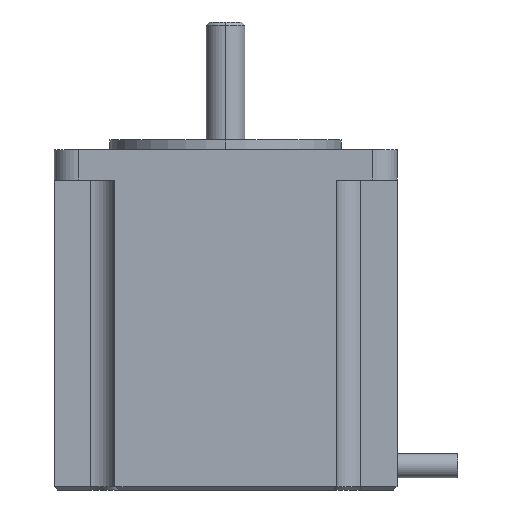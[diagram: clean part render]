
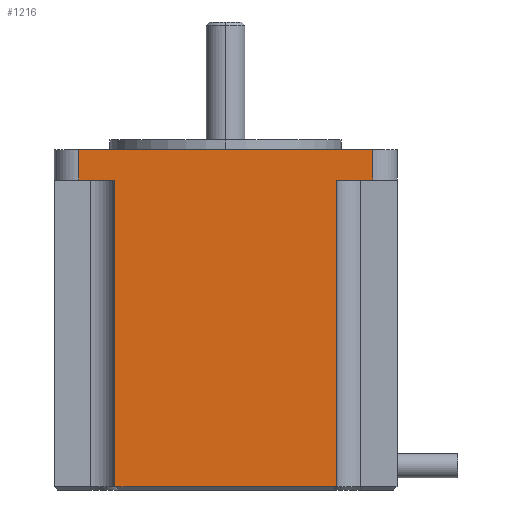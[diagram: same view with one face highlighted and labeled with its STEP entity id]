
A CAD part, left-side view. The second image highlights one B-rep face of the part: STEP entity #1216.
In plain terms, the highlighted planar face has unit normal (-1, 0, 0).
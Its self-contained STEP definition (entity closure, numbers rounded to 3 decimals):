
#20 = VERTEX_POINT ( 'NONE', #1179 ) ;
#39 = CARTESIAN_POINT ( 'NONE',  ( -28.2, -18.2, 70.142 ) ) ;
#70 = VECTOR ( 'NONE', #527, 1000. ) ;
#81 = CARTESIAN_POINT ( 'NONE',  ( -28.2, -24.2, 56. ) ) ;
#154 = EDGE_CURVE ( 'NONE', #20, #1418, #1076, .T. ) ;
#198 = EDGE_LOOP ( 'NONE', ( #678, #1629, #239, #1036, #995, #1761, #774, #1657 ) ) ;
#212 = EDGE_CURVE ( 'NONE', #959, #454, #1366, .T. ) ;
#221 = EDGE_CURVE ( 'NONE', #334, #271, #1230, .T. ) ;
#224 = VECTOR ( 'NONE', #258, 1000. ) ;
#239 = ORIENTED_EDGE ( 'NONE', *, *, #685, .F. ) ;
#258 = DIRECTION ( 'NONE',  ( 0., -1., 0. ) ) ;
#271 = VERTEX_POINT ( 'NONE', #1667 ) ;
#279 = CARTESIAN_POINT ( 'NONE',  ( -28.2, 18.2, 51. ) ) ;
#284 = EDGE_CURVE ( 'NONE', #271, #1818, #973, .T. ) ;
#334 = VERTEX_POINT ( 'NONE', #279 ) ;
#365 = CARTESIAN_POINT ( 'NONE',  ( -28.2, -24.2, 56. ) ) ;
#378 = DIRECTION ( 'NONE',  ( 0., -1., 0. ) ) ;
#441 = CARTESIAN_POINT ( 'NONE',  ( -28.2, -24.2, 56. ) ) ;
#454 = VERTEX_POINT ( 'NONE', #1300 ) ;
#459 = EDGE_CURVE ( 'NONE', #959, #925, #1717, .T. ) ;
#462 = CARTESIAN_POINT ( 'NONE',  ( -28.2, 24.2, 56. ) ) ;
#527 = DIRECTION ( 'NONE',  ( 0., 0., -1. ) ) ;
#550 = LINE ( 'NONE', #1118, #1606 ) ;
#631 = DIRECTION ( 'NONE',  ( 0., 0., -1. ) ) ;
#674 = DIRECTION ( 'NONE',  ( 0., -1., 0. ) ) ;
#678 = ORIENTED_EDGE ( 'NONE', *, *, #221, .T. ) ;
#685 = EDGE_CURVE ( 'NONE', #20, #1818, #1325, .T. ) ;
#707 = CARTESIAN_POINT ( 'NONE',  ( -28.2, 24.2, 51. ) ) ;
#774 = ORIENTED_EDGE ( 'NONE', *, *, #459, .T. ) ;
#807 = CARTESIAN_POINT ( 'NONE',  ( -28.2, -18.2, 0.5 ) ) ;
#814 = VECTOR ( 'NONE', #378, 1000. ) ;
#901 = AXIS2_PLACEMENT_3D ( 'NONE', #441, #1007, #1569 ) ;
#925 = VERTEX_POINT ( 'NONE', #707 ) ;
#928 = DIRECTION ( 'NONE',  ( 0., 0., -1. ) ) ;
#959 = VERTEX_POINT ( 'NONE', #1751 ) ;
#973 = LINE ( 'NONE', #1539, #224 ) ;
#995 = ORIENTED_EDGE ( 'NONE', *, *, #1413, .F. ) ;
#1007 = DIRECTION ( 'NONE',  ( 1., 0., 0. ) ) ;
#1025 = DIRECTION ( 'NONE',  ( 0., 0., -1. ) ) ;
#1036 = ORIENTED_EDGE ( 'NONE', *, *, #154, .T. ) ;
#1076 = LINE ( 'NONE', #1636, #814 ) ;
#1118 = CARTESIAN_POINT ( 'NONE',  ( -28.2, 0., 51. ) ) ;
#1147 = FACE_OUTER_BOUND ( 'NONE', #198, .T. ) ;
#1179 = CARTESIAN_POINT ( 'NONE',  ( -28.2, -18.2, 51. ) ) ;
#1213 = VECTOR ( 'NONE', #631, 1000. ) ;
#1216 = ADVANCED_FACE ( 'NONE', ( #1147 ), #1700, .F. ) ;
#1225 = VECTOR ( 'NONE', #928, 1000. ) ;
#1230 = LINE ( 'NONE', #1784, #70 ) ;
#1300 = CARTESIAN_POINT ( 'NONE',  ( -28.2, -24.2, 56. ) ) ;
#1325 = LINE ( 'NONE', #39, #1213 ) ;
#1366 = LINE ( 'NONE', #81, #1520 ) ;
#1413 = EDGE_CURVE ( 'NONE', #454, #1418, #1625, .T. ) ;
#1418 = VERTEX_POINT ( 'NONE', #1490 ) ;
#1487 = VECTOR ( 'NONE', #1025, 1000. ) ;
#1490 = CARTESIAN_POINT ( 'NONE',  ( -28.2, -24.2, 51. ) ) ;
#1497 = EDGE_CURVE ( 'NONE', #925, #334, #550, .T. ) ;
#1520 = VECTOR ( 'NONE', #674, 1000. ) ;
#1539 = CARTESIAN_POINT ( 'NONE',  ( -28.2, -18.2, 0.5 ) ) ;
#1569 = DIRECTION ( 'NONE',  ( 0., 1., 0. ) ) ;
#1606 = VECTOR ( 'NONE', #1674, 1000. ) ;
#1625 = LINE ( 'NONE', #365, #1225 ) ;
#1629 = ORIENTED_EDGE ( 'NONE', *, *, #284, .T. ) ;
#1636 = CARTESIAN_POINT ( 'NONE',  ( -28.2, 0., 51. ) ) ;
#1657 = ORIENTED_EDGE ( 'NONE', *, *, #1497, .T. ) ;
#1667 = CARTESIAN_POINT ( 'NONE',  ( -28.2, 18.2, 0.5 ) ) ;
#1674 = DIRECTION ( 'NONE',  ( 0., -1., 0. ) ) ;
#1700 = PLANE ( 'NONE',  #901 ) ;
#1717 = LINE ( 'NONE', #462, #1487 ) ;
#1751 = CARTESIAN_POINT ( 'NONE',  ( -28.2, 24.2, 56. ) ) ;
#1761 = ORIENTED_EDGE ( 'NONE', *, *, #212, .F. ) ;
#1784 = CARTESIAN_POINT ( 'NONE',  ( -28.2, 18.2, 70.142 ) ) ;
#1818 = VERTEX_POINT ( 'NONE', #807 ) ;
